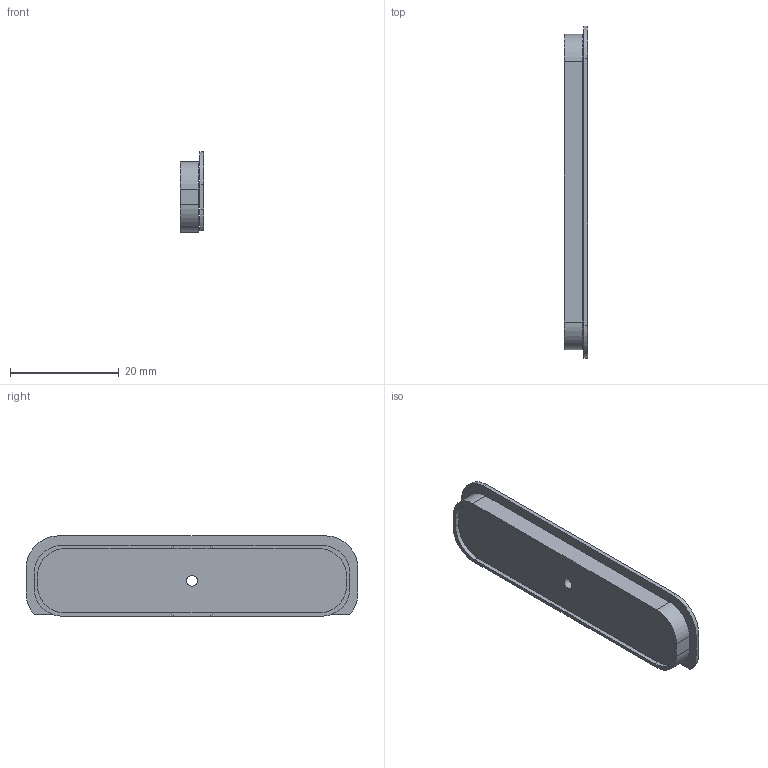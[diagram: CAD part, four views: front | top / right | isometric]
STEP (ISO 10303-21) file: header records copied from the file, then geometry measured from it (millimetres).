
FILE_DESCRIPTION(('Open CASCADE Model'),'2;1');
FILE_NAME('Open CASCADE Shape Model','2026-09-06T12:00:15',('Author'),( 'Open CASCADE'),'Open CASCADE STEP processor 7.7','Open CASCADE 7.7' ,'Unknown');
FILE_SCHEMA(('AUTOMOTIVE_DESIGN { 1 0 10303 214 1 1 1 1 }'));
Length unit declared in the file: millimetre
Products named in the file (1): Open CASCADE STEP translator 7.7 1
Bounding box: 4.3 x 61 x 14.75 mm (x, y, z)
Volume: 2547.7 mm3; surface area: 3869.7 mm2
Topology: 1 solids, 1 shells, 48 faces, 123 edges, 82 vertices
Faces by surface type: plane 29, cylinder 17, sphere 2
Full cylindrical faces by diameter (mm): 2 x5
Entity records: 3250 total; most frequent: CARTESIAN_POINT 734, DIRECTION 483, LINE 281, VECTOR 281, ORIENTED_EDGE 246, PCURVE 246, DEFINITIONAL_REPRESENTATION 246, EDGE_CURVE 123
